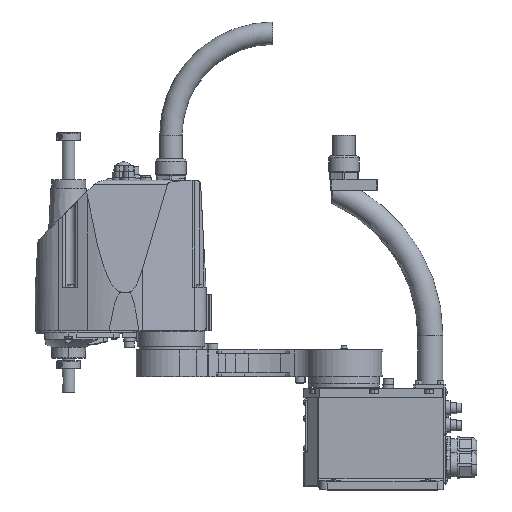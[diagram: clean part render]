
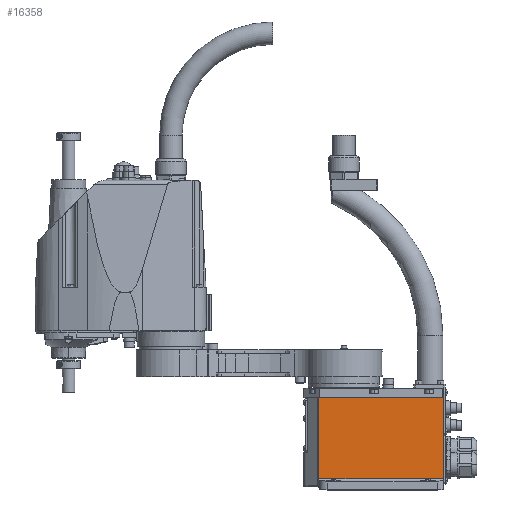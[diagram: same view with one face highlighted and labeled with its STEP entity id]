
A CAD part, top view. The second image highlights one B-rep face of the part: STEP entity #16358.
In plain terms, the highlighted planar face has unit normal (0, 0, 1).
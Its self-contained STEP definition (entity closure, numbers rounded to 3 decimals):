
#9608 = VERTEX_POINT( '', #28557 );
#15720 = VERTEX_POINT( '', #35309 );
#15946 = VERTEX_POINT( '', #35557 );
#16358 = ADVANCED_FACE( '', ( #36011 ), #36012, .T. );
#16382 = VERTEX_POINT( '', #36040 );
#17580 = EDGE_CURVE( '', #9608, #15946, #37400, .T. );
#23572 = EDGE_CURVE( '', #16382, #15720, #44067, .T. );
#24498 = EDGE_CURVE( '', #16382, #9608, #45099, .T. );
#25104 = EDGE_CURVE( '', #15946, #15720, #45763, .T. );
#28557 = CARTESIAN_POINT( '', ( -31.897, 14., 50.5 ) );
#35309 = CARTESIAN_POINT( '', ( 127., 117., 50.5 ) );
#35557 = CARTESIAN_POINT( '', ( 127., 14., 50.5 ) );
#36011 = FACE_OUTER_BOUND( '', #60539, .T. );
#36012 = PLANE( '', #60540 );
#36040 = CARTESIAN_POINT( '', ( -31.897, 117., 50.5 ) );
#37400 = LINE( '', #62510, #62511 );
#44067 = LINE( '', #72117, #72118 );
#45099 = LINE( '', #73578, #73579 );
#45763 = LINE( '', #74500, #74501 );
#60539 = EDGE_LOOP( '', ( #88512, #88513, #88514, #88515 ) );
#60540 = AXIS2_PLACEMENT_3D( '', #88516, #88517, #88518 );
#62510 = CARTESIAN_POINT( '', ( -51.5, 14., 50.5 ) );
#62511 = VECTOR( '', #90178, 1. );
#72117 = CARTESIAN_POINT( '', ( -51.5, 117., 50.5 ) );
#72118 = VECTOR( '', #97986, 1. );
#73578 = CARTESIAN_POINT( '', ( -31.897, 65.5, 50.5 ) );
#73579 = VECTOR( '', #99235, 1. );
#74500 = CARTESIAN_POINT( '', ( 127., 117., 50.5 ) );
#74501 = VECTOR( '', #99985, 1. );
#88512 = ORIENTED_EDGE( '', *, *, #24498, .T. );
#88513 = ORIENTED_EDGE( '', *, *, #17580, .T. );
#88514 = ORIENTED_EDGE( '', *, *, #25104, .T. );
#88515 = ORIENTED_EDGE( '', *, *, #23572, .F. );
#88516 = CARTESIAN_POINT( '', ( -51.5, 14., 50.5 ) );
#88517 = DIRECTION( '', ( 0., 0., 1. ) );
#88518 = DIRECTION( '', ( 0., -1., 0. ) );
#90178 = DIRECTION( '', ( 1., 0., 0. ) );
#97986 = DIRECTION( '', ( 1., 0., 0. ) );
#99235 = DIRECTION( '', ( 0., -1., 0. ) );
#99985 = DIRECTION( '', ( 0., 1., 0. ) );
